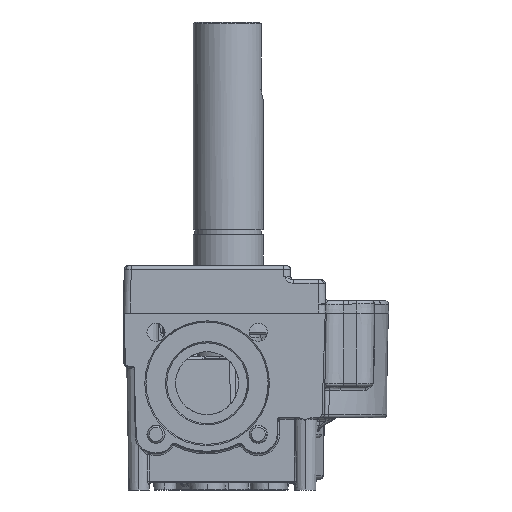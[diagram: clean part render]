
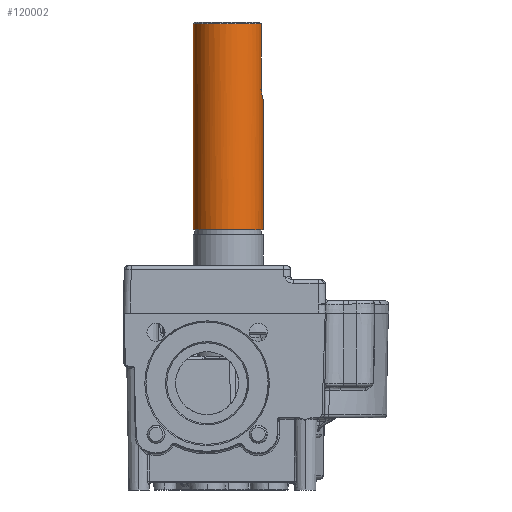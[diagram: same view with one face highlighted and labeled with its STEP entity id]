
A CAD part, left-side view. The second image highlights one B-rep face of the part: STEP entity #120002.
In plain terms, the highlighted cylindrical face has radius 10 mm (diameter 20 mm), a partial arc.
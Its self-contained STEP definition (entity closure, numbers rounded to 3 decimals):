
#1328 = CARTESIAN_POINT ( 'NONE',  ( 55.858, -34.539, 64.122 ) ) ;
#2000 = CARTESIAN_POINT ( 'NONE',  ( 55.956, -34.57, 63.337 ) ) ;
#3230 = ORIENTED_EDGE ( 'NONE', *, *, #116695, .T. ) ;
#3693 = VERTEX_POINT ( 'NONE', #95093 ) ;
#4013 = CARTESIAN_POINT ( 'NONE',  ( 56.598, -34.742, 62.14 ) ) ;
#4397 = LINE ( 'NONE', #14514, #89617 ) ;
#5484 = DIRECTION ( 'NONE',  ( 0., 0., -1. ) ) ;
#8401 = VERTEX_POINT ( 'NONE', #62306 ) ;
#10134 = EDGE_CURVE ( 'NONE', #99808, #14155, #4397, .T. ) ;
#14151 = CARTESIAN_POINT ( 'NONE',  ( 57.027, -34.832, 61.738 ) ) ;
#14155 = VERTEX_POINT ( 'NONE', #80638 ) ;
#14514 = CARTESIAN_POINT ( 'NONE',  ( 58.858, -35., -50.325 ) ) ;
#18891 = ORIENTED_EDGE ( 'NONE', *, *, #83576, .T. ) ;
#19043 = DIRECTION ( 'NONE',  ( 0., -1., 0. ) ) ;
#20204 = CARTESIAN_POINT ( 'NONE',  ( 58.858, -25., 23.925 ) ) ;
#22970 = CARTESIAN_POINT ( 'NONE',  ( 57.888, -34.955, 61.276 ) ) ;
#24305 = CARTESIAN_POINT ( 'NONE',  ( 56.258, -34.657, 62.613 ) ) ;
#29718 = ORIENTED_EDGE ( 'NONE', *, *, #10134, .F. ) ;
#33111 = VERTEX_POINT ( 'NONE', #107366 ) ;
#34336 = EDGE_CURVE ( 'NONE', #14155, #101015, #59645, .T. ) ;
#36818 = CARTESIAN_POINT ( 'NONE',  ( 58.858, -35., 61.122 ) ) ;
#39335 = DIRECTION ( 'NONE',  ( 0., 0., -1. ) ) ;
#39983 = CYLINDRICAL_SURFACE ( 'NONE', #82137, 10. ) ;
#43230 = CARTESIAN_POINT ( 'NONE',  ( 56.475, -34.713, 62.29 ) ) ;
#50223 = EDGE_LOOP ( 'NONE', ( #73361, #3230, #91356, #29718, #124183, #18891 ) ) ;
#51396 = CARTESIAN_POINT ( 'NONE',  ( 58.858, -15., 23.925 ) ) ;
#55386 = CARTESIAN_POINT ( 'NONE',  ( 58.858, -35., 61.122 ) ) ;
#59645 = CIRCLE ( 'NONE', #68276, 10. ) ;
#59666 = CARTESIAN_POINT ( 'NONE',  ( 58.858, -25., -50.325 ) ) ;
#62306 = CARTESIAN_POINT ( 'NONE',  ( 55.858, -34.539, 82.825 ) ) ;
#62722 = CIRCLE ( 'NONE', #108107, 10. ) ;
#64425 = CARTESIAN_POINT ( 'NONE',  ( 58.858, -25., 82.825 ) ) ;
#64847 = CARTESIAN_POINT ( 'NONE',  ( 58.661, -35., 61.122 ) ) ;
#68276 = AXIS2_PLACEMENT_3D ( 'NONE', #20204, #133104, #124299 ) ;
#73361 = ORIENTED_EDGE ( 'NONE', *, *, #119770, .T. ) ;
#75710 = CARTESIAN_POINT ( 'NONE',  ( 58.076, -34.971, 61.219 ) ) ;
#79313 = VECTOR ( 'NONE', #5484, 1000. ) ;
#80638 = CARTESIAN_POINT ( 'NONE',  ( 58.858, -35., 23.925 ) ) ;
#82137 = AXIS2_PLACEMENT_3D ( 'NONE', #59666, #39335, #19043 ) ;
#83576 = EDGE_CURVE ( 'NONE', #33111, #8401, #86168, .T. ) ;
#84299 = VECTOR ( 'NONE', #117907, 1000. ) ;
#84492 = CARTESIAN_POINT ( 'NONE',  ( 55.878, -34.546, 63.724 ) ) ;
#86168 = LINE ( 'NONE', #118595, #84299 ) ;
#86181 = DIRECTION ( 'NONE',  ( 0., 0., -1. ) ) ;
#89617 = VECTOR ( 'NONE', #86181, 1000. ) ;
#91356 = ORIENTED_EDGE ( 'NONE', *, *, #34336, .F. ) ;
#93988 = CARTESIAN_POINT ( 'NONE',  ( 56.013, -34.587, 63.15 ) ) ;
#95093 = CARTESIAN_POINT ( 'NONE',  ( 58.858, -15., 82.825 ) ) ;
#95973 = CARTESIAN_POINT ( 'NONE',  ( 57.351, -34.887, 61.521 ) ) ;
#96231 = DIRECTION ( 'NONE',  ( 0., 0., -1. ) ) ;
#98124 = CARTESIAN_POINT ( 'NONE',  ( 58.858, -15., -50.325 ) ) ;
#99808 = VERTEX_POINT ( 'NONE', #36818 ) ;
#101015 = VERTEX_POINT ( 'NONE', #51396 ) ;
#102654 = EDGE_CURVE ( 'NONE', #99808, #33111, #124014, .T. ) ;
#105711 = DIRECTION ( 'NONE',  ( 0., -1., 0. ) ) ;
#107366 = CARTESIAN_POINT ( 'NONE',  ( 55.858, -34.539, 64.122 ) ) ;
#108107 = AXIS2_PLACEMENT_3D ( 'NONE', #64425, #96231, #105711 ) ;
#111013 = FACE_OUTER_BOUND ( 'NONE', #50223, .T. ) ;
#115534 = CARTESIAN_POINT ( 'NONE',  ( 56.164, -34.63, 62.789 ) ) ;
#116194 = CARTESIAN_POINT ( 'NONE',  ( 56.875, -34.802, 61.863 ) ) ;
#116695 = EDGE_CURVE ( 'NONE', #3693, #101015, #127851, .T. ) ;
#116887 = CARTESIAN_POINT ( 'NONE',  ( 57.524, -34.912, 61.428 ) ) ;
#117545 = CARTESIAN_POINT ( 'NONE',  ( 58.461, -34.994, 61.142 ) ) ;
#117907 = DIRECTION ( 'NONE',  ( 0., 0., 1. ) ) ;
#118595 = CARTESIAN_POINT ( 'NONE',  ( 55.858, -34.539, -50.325 ) ) ;
#119770 = EDGE_CURVE ( 'NONE', #8401, #3693, #62722, .T. ) ;
#120002 = ADVANCED_FACE ( 'NONE', ( #111013 ), #39983, .T. ) ;
#124014 = B_SPLINE_CURVE_WITH_KNOTS ( 'NONE', 3,
 ( #55386, #64847, #117545, #75710, #22970, #116887, #95973, #14151, #116194, #4013, #43230, #24305, #115534, #93988, #2000, #84492, #125714, #1328 ),
 .UNSPECIFIED., .F., .F.,
 ( 4, 2, 2, 2, 2, 2, 2, 2, 4 ),
 ( 0.005, 0.005, 0.006, 0.006, 0.007, 0.008, 0.008, 0.009, 0.009 ),
 .UNSPECIFIED. ) ;
#124183 = ORIENTED_EDGE ( 'NONE', *, *, #102654, .T. ) ;
#124299 = DIRECTION ( 'NONE',  ( 0., -1., 0. ) ) ;
#125714 = CARTESIAN_POINT ( 'NONE',  ( 55.858, -34.539, 63.923 ) ) ;
#127851 = LINE ( 'NONE', #98124, #79313 ) ;
#133104 = DIRECTION ( 'NONE',  ( 0., 0., -1. ) ) ;
